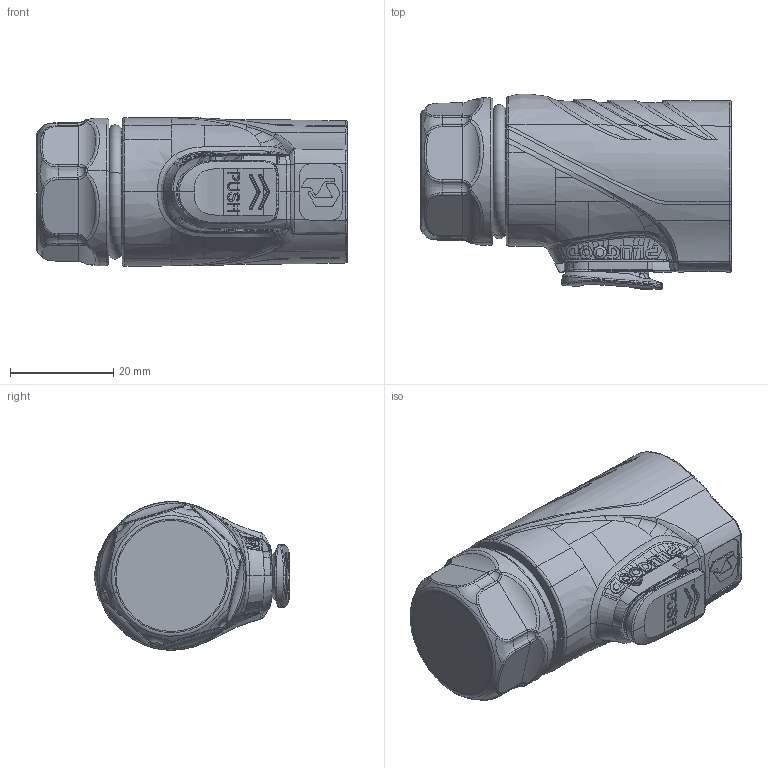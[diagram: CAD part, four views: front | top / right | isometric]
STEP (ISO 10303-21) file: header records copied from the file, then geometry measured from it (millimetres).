
FILE_DESCRIPTION (( 'STEP AP203' ), '1' );
FILE_NAME ('PLG20 RJ45眻芛脣芛.STEP', '2025-10-23T10:11:33', ( '' ), ( '' ), 'SwSTEP 2.0', 'SolidWorks 2024', '' );
FILE_SCHEMA (( 'CONFIG_CONTROL_DESIGN' ));
Products named in the file (1): PLG20 RJ45直头插头
Bounding box: 60.2 x 37.93 x 28.77 mm (x, y, z)
Surface area: 13651.8 mm2 (no closed solid volume)
Topology: 0 solids, 4 shells, 1585 faces, 4333 edges, 2730 vertices
Faces by surface type: bspline 774, plane 362, cylinder 293, cone 87, torus 65, sphere 4
Entity records: 100061 total; most frequent: CARTESIAN_POINT 66759, ORIENTED_EDGE 8453, DIRECTION 4626, EDGE_CURVE 4317, VERTEX_POINT 2729, B_SPLINE_CURVE_WITH_KNOTS 1978, AXIS2_PLACEMENT_3D 1678, EDGE_LOOP 1624
